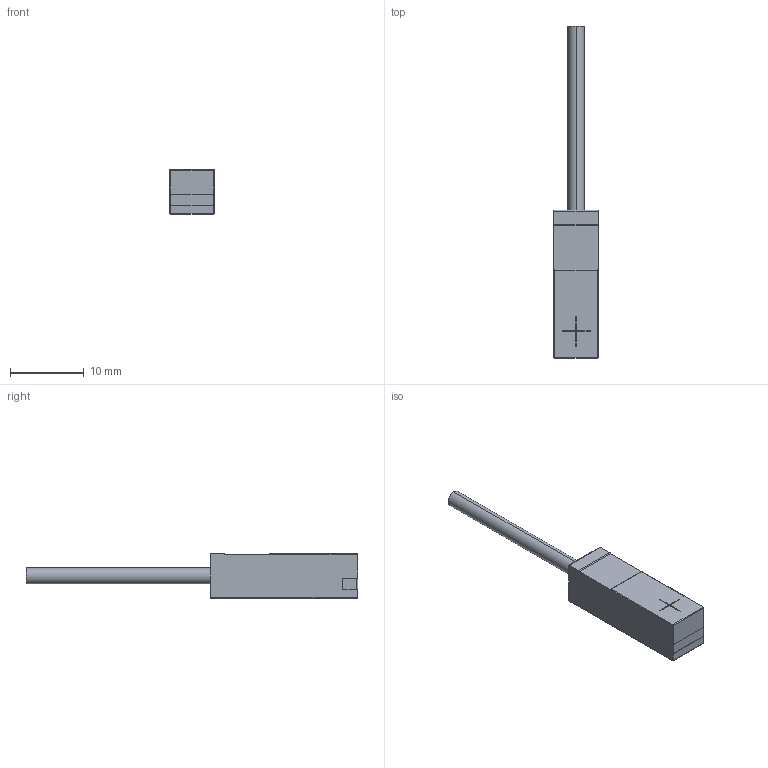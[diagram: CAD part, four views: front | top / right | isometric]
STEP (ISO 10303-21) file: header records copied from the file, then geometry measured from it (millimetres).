
FILE_DESCRIPTION (( 'STEP AP214' ), '1' );
FILE_NAME ('E06.STEP', '2015-09-23T09:32:01', ( '' ), ( '' ), 'SwSTEP 2.0', 'SolidWorks 2013', '' );
FILE_SCHEMA (( 'AUTOMOTIVE_DESIGN' ));
Length unit declared in the file: millimetre
Products named in the file (1): E06
Bounding box: 6 x 45 x 6 mm (x, y, z)
Volume: 810.4 mm3; surface area: 721.6 mm2
Topology: 1 solids, 1 shells, 52 faces, 132 edges, 80 vertices
Faces by surface type: plane 30, cylinder 18, sphere 4
Entity records: 1634 total; most frequent: CARTESIAN_POINT 273, DIRECTION 258, ORIENTED_EDGE 256, EDGE_CURVE 128, VECTOR 96, LINE 96, AXIS2_PLACEMENT_3D 81, VERTEX_POINT 80
